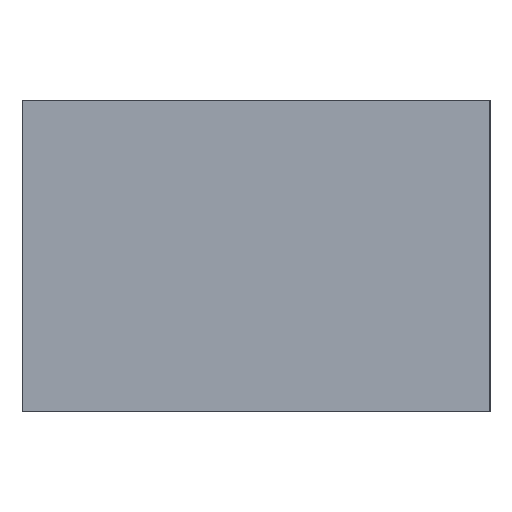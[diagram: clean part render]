
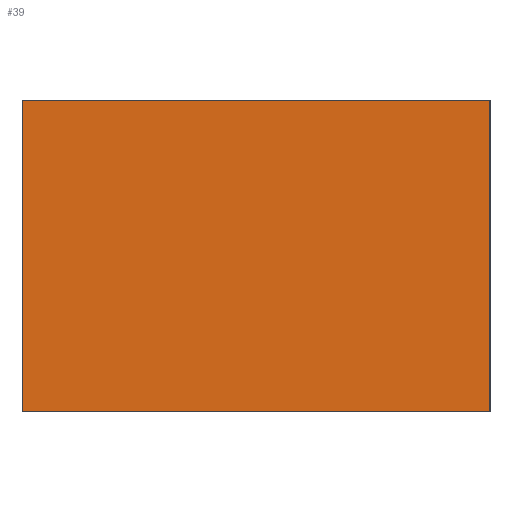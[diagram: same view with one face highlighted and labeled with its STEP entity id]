
A CAD part, left-side view. The second image highlights one B-rep face of the part: STEP entity #39.
In plain terms, the highlighted planar face has unit normal (-1, 0, 0).
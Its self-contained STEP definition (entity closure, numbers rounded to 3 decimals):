
#39 = ADVANCED_FACE('',(#40),#54,.F.);
#40 = FACE_BOUND('',#41,.F.);
#41 = EDGE_LOOP('',(#42,#77,#105,#133));
#42 = ORIENTED_EDGE('',*,*,#43,.F.);
#43 = EDGE_CURVE('',#44,#46,#48,.T.);
#44 = VERTEX_POINT('',#45);
#45 = CARTESIAN_POINT('',(-20.,-15.,-10.));
#46 = VERTEX_POINT('',#47);
#47 = CARTESIAN_POINT('',(-20.,-15.,10.));
#48 = SURFACE_CURVE('',#49,(#53,#65),.PCURVE_S1.);
#49 = LINE('',#50,#51);
#50 = CARTESIAN_POINT('',(-20.,-15.,-10.));
#51 = VECTOR('',#52,1.);
#52 = DIRECTION('',(0.,0.,1.));
#53 = PCURVE('',#54,#59);
#54 = PLANE('',#55);
#55 = AXIS2_PLACEMENT_3D('',#56,#57,#58);
#56 = CARTESIAN_POINT('',(-20.,-15.,-10.));
#57 = DIRECTION('',(1.,0.,-0.));
#58 = DIRECTION('',(0.,0.,1.));
#59 = DEFINITIONAL_REPRESENTATION('',(#60),#64);
#60 = LINE('',#61,#62);
#61 = CARTESIAN_POINT('',(0.,0.));
#62 = VECTOR('',#63,1.);
#63 = DIRECTION('',(1.,0.));
#64 = ( GEOMETRIC_REPRESENTATION_CONTEXT(2) 
PARAMETRIC_REPRESENTATION_CONTEXT() REPRESENTATION_CONTEXT('2D SPACE',''
  ) );
#65 = PCURVE('',#66,#71);
#66 = PLANE('',#67);
#67 = AXIS2_PLACEMENT_3D('',#68,#69,#70);
#68 = CARTESIAN_POINT('',(-20.,-15.,-10.));
#69 = DIRECTION('',(-0.,1.,0.));
#70 = DIRECTION('',(0.,0.,1.));
#71 = DEFINITIONAL_REPRESENTATION('',(#72),#76);
#72 = LINE('',#73,#74);
#73 = CARTESIAN_POINT('',(0.,0.));
#74 = VECTOR('',#75,1.);
#75 = DIRECTION('',(1.,0.));
#76 = ( GEOMETRIC_REPRESENTATION_CONTEXT(2) 
PARAMETRIC_REPRESENTATION_CONTEXT() REPRESENTATION_CONTEXT('2D SPACE',''
  ) );
#77 = ORIENTED_EDGE('',*,*,#78,.T.);
#78 = EDGE_CURVE('',#44,#79,#81,.T.);
#79 = VERTEX_POINT('',#80);
#80 = CARTESIAN_POINT('',(-20.,15.,-10.));
#81 = SURFACE_CURVE('',#82,(#86,#93),.PCURVE_S1.);
#82 = LINE('',#83,#84);
#83 = CARTESIAN_POINT('',(-20.,-15.,-10.));
#84 = VECTOR('',#85,1.);
#85 = DIRECTION('',(-0.,1.,0.));
#86 = PCURVE('',#54,#87);
#87 = DEFINITIONAL_REPRESENTATION('',(#88),#92);
#88 = LINE('',#89,#90);
#89 = CARTESIAN_POINT('',(0.,0.));
#90 = VECTOR('',#91,1.);
#91 = DIRECTION('',(0.,-1.));
#92 = ( GEOMETRIC_REPRESENTATION_CONTEXT(2) 
PARAMETRIC_REPRESENTATION_CONTEXT() REPRESENTATION_CONTEXT('2D SPACE',''
  ) );
#93 = PCURVE('',#94,#99);
#94 = PLANE('',#95);
#95 = AXIS2_PLACEMENT_3D('',#96,#97,#98);
#96 = CARTESIAN_POINT('',(-20.,-15.,-10.));
#97 = DIRECTION('',(0.,0.,1.));
#98 = DIRECTION('',(1.,0.,-0.));
#99 = DEFINITIONAL_REPRESENTATION('',(#100),#104);
#100 = LINE('',#101,#102);
#101 = CARTESIAN_POINT('',(0.,0.));
#102 = VECTOR('',#103,1.);
#103 = DIRECTION('',(0.,1.));
#104 = ( GEOMETRIC_REPRESENTATION_CONTEXT(2) 
PARAMETRIC_REPRESENTATION_CONTEXT() REPRESENTATION_CONTEXT('2D SPACE',''
  ) );
#105 = ORIENTED_EDGE('',*,*,#106,.T.);
#106 = EDGE_CURVE('',#79,#107,#109,.T.);
#107 = VERTEX_POINT('',#108);
#108 = CARTESIAN_POINT('',(-20.,15.,10.));
#109 = SURFACE_CURVE('',#110,(#114,#121),.PCURVE_S1.);
#110 = LINE('',#111,#112);
#111 = CARTESIAN_POINT('',(-20.,15.,-10.));
#112 = VECTOR('',#113,1.);
#113 = DIRECTION('',(0.,0.,1.));
#114 = PCURVE('',#54,#115);
#115 = DEFINITIONAL_REPRESENTATION('',(#116),#120);
#116 = LINE('',#117,#118);
#117 = CARTESIAN_POINT('',(0.,-30.));
#118 = VECTOR('',#119,1.);
#119 = DIRECTION('',(1.,0.));
#120 = ( GEOMETRIC_REPRESENTATION_CONTEXT(2) 
PARAMETRIC_REPRESENTATION_CONTEXT() REPRESENTATION_CONTEXT('2D SPACE',''
  ) );
#121 = PCURVE('',#122,#127);
#122 = PLANE('',#123);
#123 = AXIS2_PLACEMENT_3D('',#124,#125,#126);
#124 = CARTESIAN_POINT('',(-20.,15.,-10.));
#125 = DIRECTION('',(-0.,1.,0.));
#126 = DIRECTION('',(0.,0.,1.));
#127 = DEFINITIONAL_REPRESENTATION('',(#128),#132);
#128 = LINE('',#129,#130);
#129 = CARTESIAN_POINT('',(0.,0.));
#130 = VECTOR('',#131,1.);
#131 = DIRECTION('',(1.,0.));
#132 = ( GEOMETRIC_REPRESENTATION_CONTEXT(2) 
PARAMETRIC_REPRESENTATION_CONTEXT() REPRESENTATION_CONTEXT('2D SPACE',''
  ) );
#133 = ORIENTED_EDGE('',*,*,#134,.F.);
#134 = EDGE_CURVE('',#46,#107,#135,.T.);
#135 = SURFACE_CURVE('',#136,(#140,#147),.PCURVE_S1.);
#136 = LINE('',#137,#138);
#137 = CARTESIAN_POINT('',(-20.,-15.,10.));
#138 = VECTOR('',#139,1.);
#139 = DIRECTION('',(-0.,1.,0.));
#140 = PCURVE('',#54,#141);
#141 = DEFINITIONAL_REPRESENTATION('',(#142),#146);
#142 = LINE('',#143,#144);
#143 = CARTESIAN_POINT('',(20.,0.));
#144 = VECTOR('',#145,1.);
#145 = DIRECTION('',(0.,-1.));
#146 = ( GEOMETRIC_REPRESENTATION_CONTEXT(2) 
PARAMETRIC_REPRESENTATION_CONTEXT() REPRESENTATION_CONTEXT('2D SPACE',''
  ) );
#147 = PCURVE('',#148,#153);
#148 = PLANE('',#149);
#149 = AXIS2_PLACEMENT_3D('',#150,#151,#152);
#150 = CARTESIAN_POINT('',(-20.,-15.,10.));
#151 = DIRECTION('',(0.,0.,1.));
#152 = DIRECTION('',(1.,0.,-0.));
#153 = DEFINITIONAL_REPRESENTATION('',(#154),#158);
#154 = LINE('',#155,#156);
#155 = CARTESIAN_POINT('',(0.,0.));
#156 = VECTOR('',#157,1.);
#157 = DIRECTION('',(0.,1.));
#158 = ( GEOMETRIC_REPRESENTATION_CONTEXT(2) 
PARAMETRIC_REPRESENTATION_CONTEXT() REPRESENTATION_CONTEXT('2D SPACE',''
  ) );
